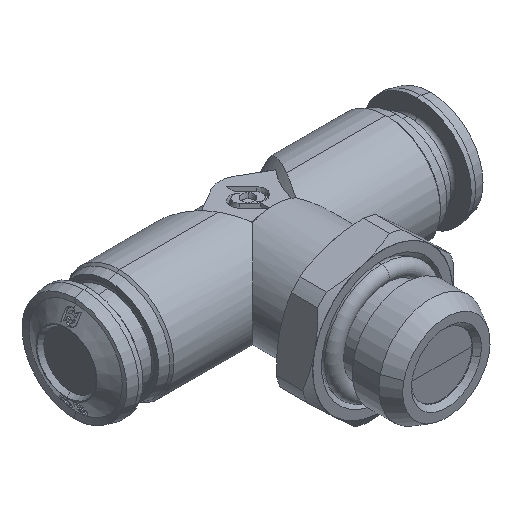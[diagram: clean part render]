
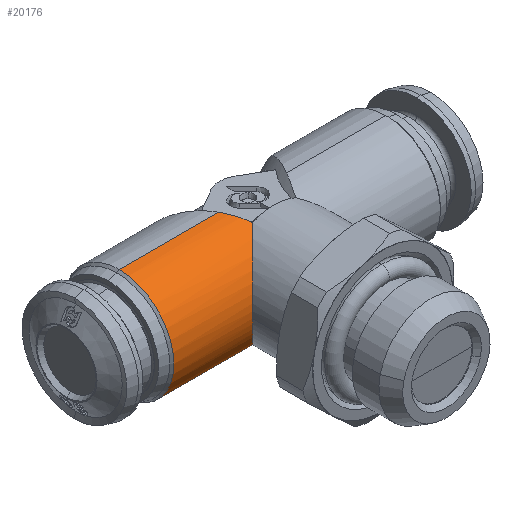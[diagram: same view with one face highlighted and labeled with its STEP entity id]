
A CAD part, isometric view. The second image highlights one B-rep face of the part: STEP entity #20176.
In plain terms, the highlighted cylindrical face has radius 6.25 mm (diameter 12.5 mm), a partial arc.
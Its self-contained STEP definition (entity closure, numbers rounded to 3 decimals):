
#163 = VERTEX_POINT ( 'NONE', #17736 ) ;
#170 = VERTEX_POINT ( 'NONE', #17729 ) ;
#171 = VERTEX_POINT ( 'NONE', #17728 ) ;
#189 = VERTEX_POINT ( 'NONE', #17710 ) ;
#269 = VERTEX_POINT ( 'NONE', #17630 ) ;
#897 = VERTEX_POINT ( 'NONE', #17578 ) ;
#1177 =( BOUNDED_CURVE ( )  B_SPLINE_CURVE ( 3, ( #4459, #4460, #4465, #4466 ),
 .UNSPECIFIED., .F., .F. ) 
 B_SPLINE_CURVE_WITH_KNOTS ( ( 4, 4 ),
 ( 0., 1.165 ),
 .UNSPECIFIED. ) 
 CURVE ( )  GEOMETRIC_REPRESENTATION_ITEM ( )  RATIONAL_B_SPLINE_CURVE ( ( 1., 0.89, 0.89, 1. ) ) 
 REPRESENTATION_ITEM ( '' )  );
#1178 =( BOUNDED_CURVE ( )  B_SPLINE_CURVE ( 3, ( #4455, #4464, #4469, #4470 ),
 .UNSPECIFIED., .F., .F. ) 
 B_SPLINE_CURVE_WITH_KNOTS ( ( 4, 4 ),
 ( 4.307, 4.32 ),
 .UNSPECIFIED. ) 
 CURVE ( )  GEOMETRIC_REPRESENTATION_ITEM ( )  RATIONAL_B_SPLINE_CURVE ( ( 1., 1., 1., 1. ) ) 
 REPRESENTATION_ITEM ( '' )  );
#1179 = B_SPLINE_CURVE_WITH_KNOTS ( 'NONE', 3,
 ( #4468, #4467, #4471, #4472, #4473, #4474 ),
 .UNSPECIFIED., .F., .F.,
 ( 4, 2, 4 ),
 ( 0., 0.5, 1. ),
 .UNSPECIFIED. ) ;
#1430 = CARTESIAN_POINT ( 'NONE',  ( -7.496, -53.842, 42.579 ) ) ;
#1431 = CARTESIAN_POINT ( 'NONE',  ( -9.862, -56.208, 41.562 ) ) ;
#1436 = CARTESIAN_POINT ( 'NONE',  ( -11.278, -57.624, 39.412 ) ) ;
#1437 = CARTESIAN_POINT ( 'NONE',  ( -11.278, -57.624, 36.837 ) ) ;
#2832 =( BOUNDED_CURVE ( )  B_SPLINE_CURVE ( 3, ( #1430, #1431, #1436, #1437 ),
 .UNSPECIFIED., .F., .T. ) 
 B_SPLINE_CURVE_WITH_KNOTS ( ( 4, 4 ),
 ( 5.118, 6.283 ),
 .UNSPECIFIED. ) 
 CURVE ( )  GEOMETRIC_REPRESENTATION_ITEM ( )  RATIONAL_B_SPLINE_CURVE ( ( 1., 0.89, 0.89, 1. ) ) 
 REPRESENTATION_ITEM ( '' )  );
#2973 = CARTESIAN_POINT ( 'NONE',  ( -8.92, -51.374, 30.587 ) ) ;
#2974 = CARTESIAN_POINT ( 'NONE',  ( -8.918, -51.378, 30.587 ) ) ;
#2975 = CARTESIAN_POINT ( 'NONE',  ( -7.539, -53.766, 31.062 ) ) ;
#2976 = CARTESIAN_POINT ( 'NONE',  ( -7.496, -53.842, 31.094 ) ) ;
#3224 = EDGE_CURVE ( 'NONE', #5126, #5125, #14836, .T. ) ;
#3230 = EDGE_CURVE ( 'NONE', #5127, #5126, #20765, .T. ) ;
#3258 = EDGE_CURVE ( 'NONE', #5125, #5124, #20749, .T. ) ;
#4455 = CARTESIAN_POINT ( 'NONE',  ( -7.496, -53.842, 42.579 ) ) ;
#4459 = CARTESIAN_POINT ( 'NONE',  ( -11.278, -57.624, 36.837 ) ) ;
#4460 = CARTESIAN_POINT ( 'NONE',  ( -11.278, -57.624, 34.261 ) ) ;
#4464 = CARTESIAN_POINT ( 'NONE',  ( -7.51, -53.816, 42.59 ) ) ;
#4465 = CARTESIAN_POINT ( 'NONE',  ( -9.862, -56.208, 32.111 ) ) ;
#4466 = CARTESIAN_POINT ( 'NONE',  ( -7.496, -53.842, 31.094 ) ) ;
#4467 = CARTESIAN_POINT ( 'NONE',  ( -8.684, -51.783, 43.087 ) ) ;
#4468 = CARTESIAN_POINT ( 'NONE',  ( -8.92, -51.374, 43.087 ) ) ;
#4469 = CARTESIAN_POINT ( 'NONE',  ( -7.525, -53.791, 42.6 ) ) ;
#4470 = CARTESIAN_POINT ( 'NONE',  ( -7.539, -53.766, 42.611 ) ) ;
#4471 = CARTESIAN_POINT ( 'NONE',  ( -8.448, -52.193, 43.046 ) ) ;
#4472 = CARTESIAN_POINT ( 'NONE',  ( -7.984, -52.995, 42.887 ) ) ;
#4473 = CARTESIAN_POINT ( 'NONE',  ( -7.757, -53.388, 42.767 ) ) ;
#4474 = CARTESIAN_POINT ( 'NONE',  ( -7.539, -53.766, 42.611 ) ) ;
#4476 = CARTESIAN_POINT ( 'NONE',  ( -20.296, -51.374, 36.837 ) ) ;
#4477 = DIRECTION ( 'NONE',  ( 1., 0., 0. ) ) ;
#4478 = DIRECTION ( 'NONE',  ( 0., 0., -1. ) ) ;
#5124 = VERTEX_POINT ( 'NONE', #2973 ) ;
#5125 = VERTEX_POINT ( 'NONE', #2974 ) ;
#5126 = VERTEX_POINT ( 'NONE', #2975 ) ;
#5127 = VERTEX_POINT ( 'NONE', #2976 ) ;
#7623 = CARTESIAN_POINT ( 'NONE',  ( -7.757, -53.388, 30.906 ) ) ;
#7624 = CARTESIAN_POINT ( 'NONE',  ( -7.984, -52.995, 30.786 ) ) ;
#7630 = CARTESIAN_POINT ( 'NONE',  ( -7.539, -53.766, 31.062 ) ) ;
#7632 = CARTESIAN_POINT ( 'NONE',  ( -8.447, -52.194, 30.627 ) ) ;
#7633 = CARTESIAN_POINT ( 'NONE',  ( -8.683, -51.786, 30.587 ) ) ;
#7634 = CARTESIAN_POINT ( 'NONE',  ( -8.918, -51.378, 30.587 ) ) ;
#7653 = CARTESIAN_POINT ( 'NONE',  ( -7.496, -53.842, 31.094 ) ) ;
#7654 = CARTESIAN_POINT ( 'NONE',  ( -7.51, -53.816, 31.083 ) ) ;
#7659 = CARTESIAN_POINT ( 'NONE',  ( -7.525, -53.791, 31.073 ) ) ;
#7660 = CARTESIAN_POINT ( 'NONE',  ( -7.539, -53.766, 31.062 ) ) ;
#9116 = EDGE_CURVE ( 'NONE', #171, #170, #2832, .T. ) ;
#9256 = EDGE_CURVE ( 'NONE', #5124, #189, #14528, .T. ) ;
#9257 = EDGE_CURVE ( 'NONE', #163, #897, #14546, .T. ) ;
#9530 = EDGE_CURVE ( 'NONE', #170, #5127, #1177, .T. ) ;
#9531 = EDGE_CURVE ( 'NONE', #171, #269, #1178, .T. ) ;
#9532 = EDGE_CURVE ( 'NONE', #163, #269, #1179, .T. ) ;
#9533 = EDGE_CURVE ( 'NONE', #897, #189, #18198, .T. ) ;
#9898 = ORIENTED_EDGE ( 'NONE', *, *, #9256, .F. ) ;
#9899 = ORIENTED_EDGE ( 'NONE', *, *, #3258, .F. ) ;
#9900 = ORIENTED_EDGE ( 'NONE', *, *, #3224, .F. ) ;
#9901 = ORIENTED_EDGE ( 'NONE', *, *, #3230, .F. ) ;
#9902 = ORIENTED_EDGE ( 'NONE', *, *, #9530, .F. ) ;
#9903 = ORIENTED_EDGE ( 'NONE', *, *, #9116, .F. ) ;
#9904 = ORIENTED_EDGE ( 'NONE', *, *, #9531, .T. ) ;
#9905 = ORIENTED_EDGE ( 'NONE', *, *, #9532, .F. ) ;
#9906 = ORIENTED_EDGE ( 'NONE', *, *, #9257, .T. ) ;
#9907 = ORIENTED_EDGE ( 'NONE', *, *, #9533, .T. ) ;
#10246 = AXIS2_PLACEMENT_3D ( 'NONE', #4476, #4477, #4478 ) ;
#10472 = CARTESIAN_POINT ( 'NONE',  ( -22.528, -51.374, 30.587 ) ) ;
#10480 = DIRECTION ( 'NONE',  ( -1., 0., 0. ) ) ;
#10481 = CARTESIAN_POINT ( 'NONE',  ( -22.528, -51.374, 43.087 ) ) ;
#10483 = DIRECTION ( 'NONE',  ( -1., 0., 0. ) ) ;
#12481 = DIRECTION ( 'NONE',  ( -1., 0., 0. ) ) ;
#12492 = CARTESIAN_POINT ( 'NONE',  ( -22.528, -51.374, 36.837 ) ) ;
#12500 = DIRECTION ( 'NONE',  ( 0., 0., 1. ) ) ;
#14072 = EDGE_LOOP ( 'NONE', ( #9898, #9899, #9900, #9901, #9902, #9903, #9904, #9905, #9906, #9907 ) ) ;
#14528 = LINE ( 'NONE', #10472, #14547 ) ;
#14546 = LINE ( 'NONE', #10481, #14549 ) ;
#14547 = VECTOR ( 'NONE', #10480, 1000. ) ;
#14549 = VECTOR ( 'NONE', #10483, 1000. ) ;
#14836 = B_SPLINE_CURVE_WITH_KNOTS ( 'NONE', 3,
 ( #7630, #7623, #7624, #7632, #7633, #7634 ),
 .UNSPECIFIED., .F., .F.,
 ( 4, 2, 4 ),
 ( 0., 0.501, 1. ),
 .UNSPECIFIED. ) ;
#14877 = CARTESIAN_POINT ( 'NONE',  ( -8.919, -51.377, 30.587 ) ) ;
#14878 = CARTESIAN_POINT ( 'NONE',  ( -8.918, -51.378, 30.587 ) ) ;
#14886 = CARTESIAN_POINT ( 'NONE',  ( -8.919, -51.376, 30.587 ) ) ;
#14887 = CARTESIAN_POINT ( 'NONE',  ( -8.92, -51.374, 30.587 ) ) ;
#17578 = CARTESIAN_POINT ( 'NONE',  ( -20.296, -51.374, 43.087 ) ) ;
#17630 = CARTESIAN_POINT ( 'NONE',  ( -7.539, -53.766, 42.611 ) ) ;
#17710 = CARTESIAN_POINT ( 'NONE',  ( -20.296, -51.374, 30.587 ) ) ;
#17728 = CARTESIAN_POINT ( 'NONE',  ( -7.496, -53.842, 42.579 ) ) ;
#17729 = CARTESIAN_POINT ( 'NONE',  ( -11.278, -57.624, 36.837 ) ) ;
#17736 = CARTESIAN_POINT ( 'NONE',  ( -8.92, -51.374, 43.087 ) ) ;
#18198 = CIRCLE ( 'NONE', #10246, 6.25 ) ;
#18494 = AXIS2_PLACEMENT_3D ( 'NONE', #12492, #12481, #12500 ) ;
#19365 = FACE_OUTER_BOUND ( 'NONE', #14072, .T. ) ;
#19395 = CYLINDRICAL_SURFACE ( 'NONE', #18494, 6.25 ) ;
#20176 = ADVANCED_FACE ( 'NONE', ( #19365 ), #19395, .T. ) ;
#20749 = B_SPLINE_CURVE_WITH_KNOTS ( 'NONE', 3,
 ( #14878, #14877, #14886, #14887 ),
 .UNSPECIFIED., .F., .F.,
 ( 4, 4 ),
 ( 0., 0.003 ),
 .UNSPECIFIED. ) ;
#20765 = B_SPLINE_CURVE_WITH_KNOTS ( 'NONE', 3,
 ( #7653, #7654, #7659, #7660 ),
 .UNSPECIFIED., .F., .F.,
 ( 4, 4 ),
 ( 0.008, 0.008 ),
 .UNSPECIFIED. ) ;
